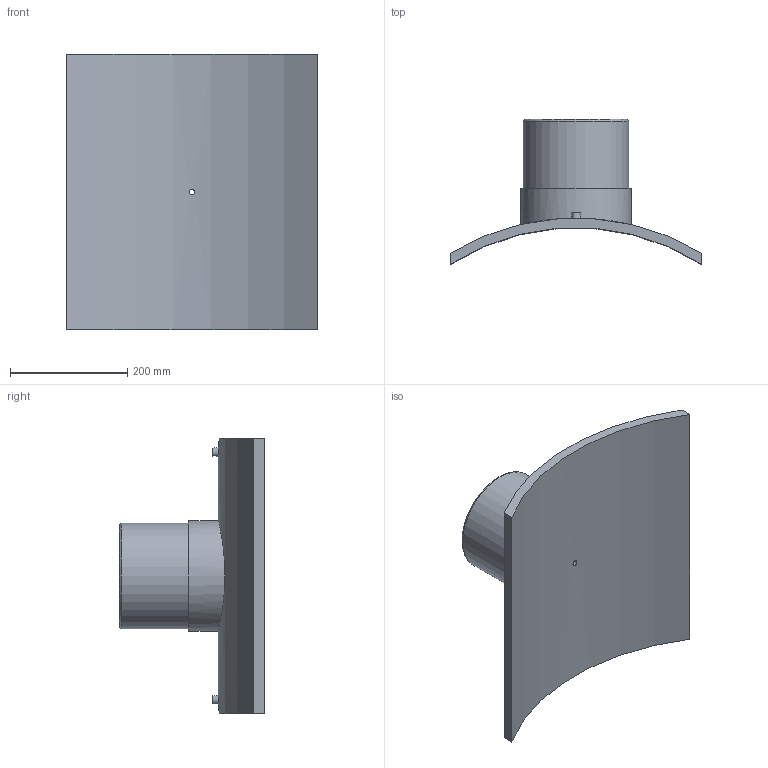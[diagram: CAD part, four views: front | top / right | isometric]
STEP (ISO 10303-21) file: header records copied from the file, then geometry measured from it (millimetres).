
FILE_DESCRIPTION(/* description */ ('PLASSON BRANCH SADDLE 800x180'),/* implementation_level */ '2;1');
FILE_NAME(/* name */ 'C:\Dropbox\KIMPROJECTS-Inventor 2019\99-16-3568-Processing\ElectroFusion Fittings\495803\stp\495803800180T.stp',/* time_stamp */ '2024-04-04T11:57:03+02:00',/* author */ ('KIM'),/* organization */ (''),/* preprocessor_version */ 'ST-DEVELOPER v17.2',/* originating_system */ 'Autodesk Inventor 2019',/* authorisation */ '');
FILE_SCHEMA (('AUTOMOTIVE_DESIGN { 1 0 10303 214 3 1 1 }'));
Length unit declared in the file: millimetre
Products named in the file (1): 495803800180T
Bounding box: 430 x 247.69 x 470 mm (x, y, z)
Volume: 5144249.8 mm3; surface area: 643285.3 mm2
Topology: 1 solids, 1 shells, 29 faces, 60 edges, 43 vertices
Faces by surface type: plane 13, cylinder 12, torus 2, cone 2
Full cylindrical faces by diameter (mm): 4 x2, 9.6 x1, 10 x2, 16 x1, 144 x1, 180 x1, 189 x1
Entity records: 1086 total; most frequent: CARTESIAN_POINT 400, DIRECTION 139, ORIENTED_EDGE 120, EDGE_CURVE 60, AXIS2_PLACEMENT_3D 60, VERTEX_POINT 43, EDGE_LOOP 41, CIRCLE 30
